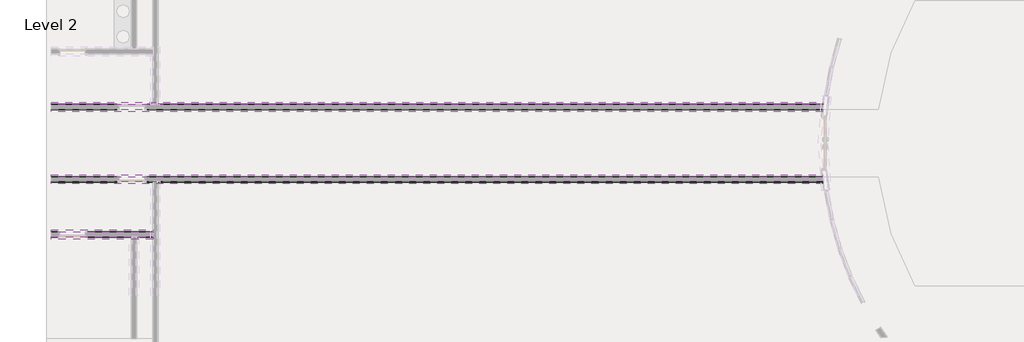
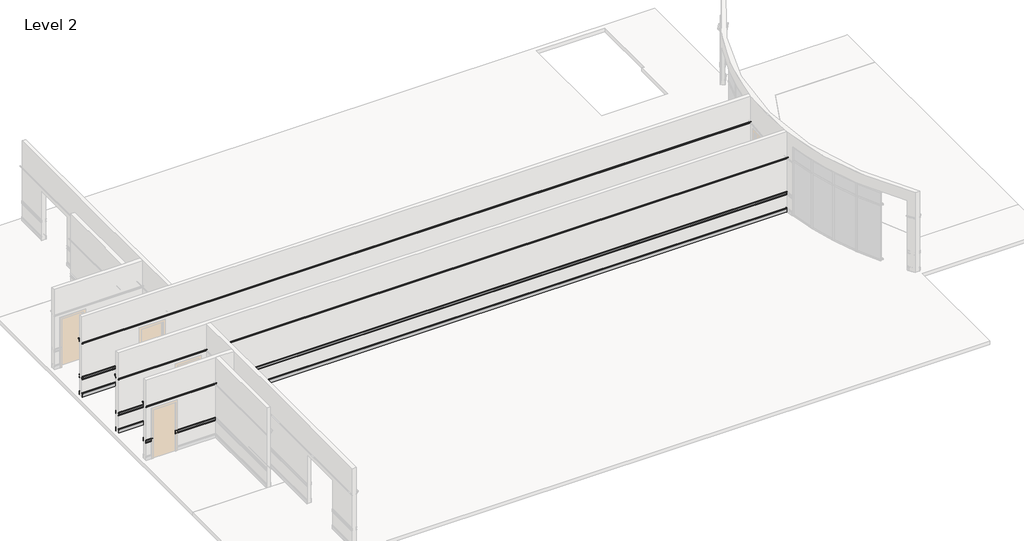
# One storey, part 7 of 14: 16 proxies.
"""IFC4 building model written with IfcOpenShell, lengths in millimetres."""

from ifc_helpers import new_model, si_unit, point, frame, frame_2d, origin, place, context, project, spatial, polyline, circle_curve, trimmed, segment, composite_curve, outline, extrude, element, save

model = new_model("IFC4")

# Units and contexts
model_context = context("Model", 3, world=origin())
ifc_project = project(units=[si_unit("LENGTHUNIT", "METRE", prefix="MILLI")], contexts=[model_context])

# Site, building, storey
site = spatial("IfcSite", under=ifc_project)
building = spatial("IfcBuilding", under=site)
storey = spatial("IfcBuildingStorey", under=building, Name="Level 2", Elevation=3657.6)

# Proxies
placement = place(None, origin())
element("IfcBuildingElementProxy", 1, Name="Wall Sweeps", at=placement, inside=storey, context=model_context, shape_type="SweptSolid", body=[
    extrude(outline(composite_curve([segment(polyline([(-3896.4601682, 3803.65), (-3894.265893, 3804.1164076)]), True, "CONTINUOUS"), segment(trimmed(circle_curve(frame_2d((-3894.4309229, 3804.8928122)), 0.79375), [point((-3894.265893, 3804.1164076))], [point((-3893.8543377, 3805.438329))], True, "CARTESIAN"), True, "CONTINUOUS"), segment(trimmed(circle_curve(frame_2d((-3886.9351681, 3812.047453)), 9.5684601), [point((-3893.8543377, 3805.438329))], [point((-3894.8499443, 3817.4244174))], False, "CARTESIAN"), True, "CONTINUOUS"), segment(polyline([(-3894.8499443, 3817.4244174), (-3888.0086514, 3827.5015472)]), True, "CONTINUOUS"), segment(trimmed(circle_curve(frame_2d((-3893.2851681, 3831.034375)), 6.35), [point((-3888.0086514, 3827.5015472))], [point((-3889.3812226, 3836.0425393))], True, "CARTESIAN"), True, "CONTINUOUS"), segment(polyline([(-3889.3812226, 3836.0425393), (-3886.9351681, 3841.75), (-3880.5851681, 3841.75), (-3880.5851681, 3797.3), (-3882.1726681, 3795.7125), (-3882.1726681, 3684.5875), (-3880.5851681, 3683.0), (-3880.5851681, 3657.6), (-3896.4601682, 3657.6), (-3896.4601682, 3803.65)]), True, "CONTINUOUS")], self_intersect=False)), frame((-13713.6410279, 0.0, 0.0), z_axis=(1.0, 0.0, 0.0), x_axis=(0.0, 1.0, 0.0)), (0.0, 0.0, 1.0), 24332.5900649),
    extrude(outline(composite_curve([segment(polyline([(-3896.4601682, 3803.65), (-3894.265893, 3804.1164076)]), True, "CONTINUOUS"), segment(trimmed(circle_curve(frame_2d((-3894.4309229, 3804.8928122)), 0.79375), [point((-3894.265893, 3804.1164076))], [point((-3893.8543377, 3805.438329))], True, "CARTESIAN"), True, "CONTINUOUS"), segment(trimmed(circle_curve(frame_2d((-3886.9351681, 3812.047453)), 9.5684601), [point((-3893.8543377, 3805.438329))], [point((-3894.8499443, 3817.4244174))], False, "CARTESIAN"), True, "CONTINUOUS"), segment(polyline([(-3894.8499443, 3817.4244174), (-3888.0086514, 3827.5015472)]), True, "CONTINUOUS"), segment(trimmed(circle_curve(frame_2d((-3893.2851681, 3831.034375)), 6.35), [point((-3888.0086514, 3827.5015472))], [point((-3889.3812226, 3836.0425393))], True, "CARTESIAN"), True, "CONTINUOUS"), segment(polyline([(-3889.3812226, 3836.0425393), (-3886.9351681, 3841.75), (-3880.5851681, 3841.75), (-3880.5851681, 3797.3), (-3882.1726681, 3795.7125), (-3882.1726681, 3684.5875), (-3880.5851681, 3683.0), (-3880.5851681, 3657.6), (-3896.4601682, 3657.6), (-3896.4601682, 3803.65)]), True, "CONTINUOUS")], self_intersect=False)), frame((-17066.4410279, 0.0, 0.0), z_axis=(1.0, 0.0, 0.0), x_axis=(0.0, 1.0, 0.0)), (0.0, 0.0, 1.0), 2438.4),
])
element("IfcBuildingElementProxy", 2, Name="Wall Sweeps", at=placement, inside=storey, context=model_context, shape_type="SweptSolid", body=[
    extrude(outline(composite_curve([segment(polyline([(-3709.135168, 3803.65), (-3709.135168, 3657.6), (-3725.0101681, 3657.6), (-3725.0101681, 3683.0), (-3723.4226681, 3684.5875), (-3723.4226681, 3795.7125), (-3725.0101681, 3797.3), (-3725.0101681, 3841.75), (-3718.6601681, 3841.75), (-3716.2141135, 3836.0425393)]), True, "CONTINUOUS"), segment(trimmed(circle_curve(frame_2d((-3712.3101681, 3831.034375)), 6.35), [point((-3716.2141135, 3836.0425393))], [point((-3717.5866847, 3827.5015472))], True, "CARTESIAN"), True, "CONTINUOUS"), segment(polyline([(-3717.5866847, 3827.5015472), (-3710.7453919, 3817.4244174)]), True, "CONTINUOUS"), segment(trimmed(circle_curve(frame_2d((-3718.6601681, 3812.047453)), 9.5684601), [point((-3710.7453919, 3817.4244174))], [point((-3711.7409985, 3805.438329))], False, "CARTESIAN"), True, "CONTINUOUS"), segment(trimmed(circle_curve(frame_2d((-3711.1644132, 3804.8928122)), 0.79375), [point((-3711.7409985, 3805.438329))], [point((-3711.3294431, 3804.1164076))], True, "CARTESIAN"), True, "CONTINUOUS"), segment(polyline([(-3711.3294431, 3804.1164076), (-3709.135168, 3803.65)]), True, "CONTINUOUS")], self_intersect=False)), frame((-17066.4410279, 0.0, 0.0), z_axis=(1.0, 0.0, 0.0), x_axis=(0.0, 1.0, 0.0)), (0.0, 0.0, 1.0), 2438.4),
    extrude(outline(composite_curve([segment(polyline([(-3709.135168, 3803.65), (-3709.135168, 3657.6), (-3725.0101681, 3657.6), (-3725.0101681, 3683.0), (-3723.4226681, 3684.5875), (-3723.4226681, 3795.7125), (-3725.0101681, 3797.3), (-3725.0101681, 3841.75), (-3718.6601681, 3841.75), (-3716.2141135, 3836.0425393)]), True, "CONTINUOUS"), segment(trimmed(circle_curve(frame_2d((-3712.3101681, 3831.034375)), 6.35), [point((-3716.2141135, 3836.0425393))], [point((-3717.5866847, 3827.5015472))], True, "CARTESIAN"), True, "CONTINUOUS"), segment(polyline([(-3717.5866847, 3827.5015472), (-3710.7453919, 3817.4244174)]), True, "CONTINUOUS"), segment(trimmed(circle_curve(frame_2d((-3718.6601681, 3812.047453)), 9.5684601), [point((-3710.7453919, 3817.4244174))], [point((-3711.7409985, 3805.438329))], False, "CARTESIAN"), True, "CONTINUOUS"), segment(trimmed(circle_curve(frame_2d((-3711.1644132, 3804.8928122)), 0.79375), [point((-3711.7409985, 3805.438329))], [point((-3711.3294431, 3804.1164076))], True, "CARTESIAN"), True, "CONTINUOUS"), segment(polyline([(-3711.3294431, 3804.1164076), (-3709.135168, 3803.65)]), True, "CONTINUOUS")], self_intersect=False)), frame((-13713.6410279, 0.0, 0.0), z_axis=(1.0, 0.0, 0.0), x_axis=(0.0, 1.0, 0.0)), (0.0, 0.0, 1.0), 24316.0518937),
])
element("IfcBuildingElementProxy", 3, Name="Wall Sweeps", at=placement, inside=storey, context=model_context, shape_type="SweptSolid", body=[
    extrude(outline(composite_curve([segment(polyline([(-3882.1726681, 4438.65), (-3880.5851681, 4437.0625), (-3880.5851681, 4419.6), (-3901.2226681, 4419.6), (-3901.2226681, 4438.65), (-3898.8414181, 4438.65)]), True, "CONTINUOUS"), segment(trimmed(circle_curve(frame_2d((-3893.8213023, 4441.03125)), 5.55625), [point((-3898.8414181, 4438.65))], [point((-3897.7501643, 4444.9601121))], False, "CARTESIAN"), True, "CONTINUOUS"), segment(trimmed(circle_curve(frame_2d((-3905.5369874, 4453.7135672)), 11.7156984), [point((-3897.7501643, 4444.9601121))], [point((-3893.8213023, 4453.73125))], True, "CARTESIAN"), True, "CONTINUOUS"), segment(polyline([(-3893.8213023, 4453.73125), (-3891.6976681, 4453.73125), (-3891.6976681, 4525.16875), (-3893.8213023, 4525.16875)]), True, "CONTINUOUS"), segment(trimmed(circle_curve(frame_2d((-3905.5369874, 4525.1864328)), 11.7156984), [point((-3893.8213023, 4525.16875))], [point((-3897.7501643, 4533.9398879))], True, "CARTESIAN"), True, "CONTINUOUS"), segment(trimmed(circle_curve(frame_2d((-3893.8213023, 4537.86875)), 5.55625), [point((-3897.7501643, 4533.9398879))], [point((-3898.8414181, 4540.25))], False, "CARTESIAN"), True, "CONTINUOUS"), segment(polyline([(-3898.8414181, 4540.25), (-3901.2226681, 4540.25), (-3901.2226681, 4559.3), (-3880.5851681, 4559.3), (-3880.5851681, 4541.8375), (-3882.1726681, 4540.25), (-3882.1726681, 4438.65)]), True, "CONTINUOUS")], self_intersect=False)), frame((-13713.6410279, 0.0, 0.0), z_axis=(1.0, 0.0, 0.0), x_axis=(0.0, 1.0, 0.0)), (0.0, 0.0, 1.0), 24332.5900649),
    extrude(outline(composite_curve([segment(polyline([(-3882.1726681, 4438.65), (-3880.5851681, 4437.0625), (-3880.5851681, 4419.6), (-3901.2226681, 4419.6), (-3901.2226681, 4438.65), (-3898.8414181, 4438.65)]), True, "CONTINUOUS"), segment(trimmed(circle_curve(frame_2d((-3893.8213023, 4441.03125)), 5.55625), [point((-3898.8414181, 4438.65))], [point((-3897.7501643, 4444.9601121))], False, "CARTESIAN"), True, "CONTINUOUS"), segment(trimmed(circle_curve(frame_2d((-3905.5369874, 4453.7135672)), 11.7156984), [point((-3897.7501643, 4444.9601121))], [point((-3893.8213023, 4453.73125))], True, "CARTESIAN"), True, "CONTINUOUS"), segment(polyline([(-3893.8213023, 4453.73125), (-3891.6976681, 4453.73125), (-3891.6976681, 4525.16875), (-3893.8213023, 4525.16875)]), True, "CONTINUOUS"), segment(trimmed(circle_curve(frame_2d((-3905.5369874, 4525.1864328)), 11.7156984), [point((-3893.8213023, 4525.16875))], [point((-3897.7501643, 4533.9398879))], True, "CARTESIAN"), True, "CONTINUOUS"), segment(trimmed(circle_curve(frame_2d((-3893.8213023, 4537.86875)), 5.55625), [point((-3897.7501643, 4533.9398879))], [point((-3898.8414181, 4540.25))], False, "CARTESIAN"), True, "CONTINUOUS"), segment(polyline([(-3898.8414181, 4540.25), (-3901.2226681, 4540.25), (-3901.2226681, 4559.3), (-3880.5851681, 4559.3), (-3880.5851681, 4541.8375), (-3882.1726681, 4540.25), (-3882.1726681, 4438.65)]), True, "CONTINUOUS")], self_intersect=False)), frame((-17066.4410279, 0.0, 0.0), z_axis=(1.0, 0.0, 0.0), x_axis=(0.0, 1.0, 0.0)), (0.0, 0.0, 1.0), 2438.4),
])
element("IfcBuildingElementProxy", 4, Name="Wall Sweeps", at=placement, inside=storey, context=model_context, shape_type="SweptSolid", body=[
    extrude(outline(composite_curve([segment(polyline([(-3723.4226681, 4438.65), (-3723.4226681, 4540.25), (-3725.0101681, 4541.8375), (-3725.0101681, 4559.3), (-3704.3726681, 4559.3), (-3704.3726681, 4540.25), (-3706.7539181, 4540.25)]), True, "CONTINUOUS"), segment(trimmed(circle_curve(frame_2d((-3711.7740339, 4537.86875)), 5.55625), [point((-3706.7539181, 4540.25))], [point((-3707.8451718, 4533.9398879))], False, "CARTESIAN"), True, "CONTINUOUS"), segment(trimmed(circle_curve(frame_2d((-3700.0583488, 4525.1864328)), 11.7156984), [point((-3707.8451718, 4533.9398879))], [point((-3711.7740339, 4525.16875))], True, "CARTESIAN"), True, "CONTINUOUS"), segment(polyline([(-3711.7740339, 4525.16875), (-3713.8976681, 4525.16875), (-3713.8976681, 4453.73125), (-3711.7740339, 4453.73125)]), True, "CONTINUOUS"), segment(trimmed(circle_curve(frame_2d((-3700.0583488, 4453.7135672)), 11.7156984), [point((-3711.7740339, 4453.73125))], [point((-3707.8451718, 4444.9601121))], True, "CARTESIAN"), True, "CONTINUOUS"), segment(trimmed(circle_curve(frame_2d((-3711.7740339, 4441.03125)), 5.55625), [point((-3707.8451718, 4444.9601121))], [point((-3706.7539181, 4438.65))], False, "CARTESIAN"), True, "CONTINUOUS"), segment(polyline([(-3706.7539181, 4438.65), (-3704.3726681, 4438.65), (-3704.3726681, 4419.6), (-3725.0101681, 4419.6), (-3725.0101681, 4437.0625), (-3723.4226681, 4438.65)]), True, "CONTINUOUS")], self_intersect=False)), frame((-17066.4410279, 0.0, 0.0), z_axis=(1.0, 0.0, 0.0), x_axis=(0.0, 1.0, 0.0)), (0.0, 0.0, 1.0), 2438.4),
    extrude(outline(composite_curve([segment(polyline([(-3723.4226681, 4438.65), (-3723.4226681, 4540.25), (-3725.0101681, 4541.8375), (-3725.0101681, 4559.3), (-3704.3726681, 4559.3), (-3704.3726681, 4540.25), (-3706.7539181, 4540.25)]), True, "CONTINUOUS"), segment(trimmed(circle_curve(frame_2d((-3711.7740339, 4537.86875)), 5.55625), [point((-3706.7539181, 4540.25))], [point((-3707.8451718, 4533.9398879))], False, "CARTESIAN"), True, "CONTINUOUS"), segment(trimmed(circle_curve(frame_2d((-3700.0583488, 4525.1864328)), 11.7156984), [point((-3707.8451718, 4533.9398879))], [point((-3711.7740339, 4525.16875))], True, "CARTESIAN"), True, "CONTINUOUS"), segment(polyline([(-3711.7740339, 4525.16875), (-3713.8976681, 4525.16875), (-3713.8976681, 4453.73125), (-3711.7740339, 4453.73125)]), True, "CONTINUOUS"), segment(trimmed(circle_curve(frame_2d((-3700.0583488, 4453.7135672)), 11.7156984), [point((-3711.7740339, 4453.73125))], [point((-3707.8451718, 4444.9601121))], True, "CARTESIAN"), True, "CONTINUOUS"), segment(trimmed(circle_curve(frame_2d((-3711.7740339, 4441.03125)), 5.55625), [point((-3707.8451718, 4444.9601121))], [point((-3706.7539181, 4438.65))], False, "CARTESIAN"), True, "CONTINUOUS"), segment(polyline([(-3706.7539181, 4438.65), (-3704.3726681, 4438.65), (-3704.3726681, 4419.6), (-3725.0101681, 4419.6), (-3725.0101681, 4437.0625), (-3723.4226681, 4438.65)]), True, "CONTINUOUS")], self_intersect=False)), frame((-13713.6410279, 0.0, 0.0), z_axis=(1.0, 0.0, 0.0), x_axis=(0.0, 1.0, 0.0)), (0.0, 0.0, 1.0), 24316.0518937),
])
element("IfcBuildingElementProxy", 5, Name="Wall Sweeps", at=placement, inside=storey, context=model_context, shape_type="SweptSolid", body=[
    extrude(outline(composite_curve([segment(polyline([(-3948.7783306, 6095.999973), (-3880.5851681, 6009.4919306), (-3880.5851681, 5984.875), (-3887.7680353, 5984.875)]), True, "CONTINUOUS"), segment(trimmed(circle_curve(frame_2d((-3895.0214546, 5984.8589154)), 7.2534372), [point((-3887.7680353, 5984.875))], [point((-3891.7441612, 5991.3297498))], True, "CARTESIAN"), True, "CONTINUOUS"), segment(polyline([(-3891.7441612, 5991.3297498), (-3891.7441612, 5995.6157037)]), True, "CONTINUOUS"), segment(trimmed(circle_curve(frame_2d((-3888.3826385, 6005.5606001)), 10.4976568), [point((-3891.7441612, 5995.6157037))], [point((-3898.870205, 6006.0207604))], False, "CARTESIAN"), True, "CONTINUOUS"), segment(polyline([(-3898.870205, 6006.0207604), (-3902.4590459, 6006.0207604), (-3902.4590459, 6011.0554653), (-3905.6864208, 6011.0554653)]), True, "CONTINUOUS"), segment(trimmed(circle_curve(frame_2d((-3952.6348228, 6007.8346746)), 47.0587499), [point((-3905.6864208, 6011.0554653))], [point((-3931.1826826, 6049.7194168))], True, "CARTESIAN"), True, "CONTINUOUS"), segment(polyline([(-3931.1826826, 6049.7194168), (-3938.4249119, 6054.4442936)]), True, "CONTINUOUS"), segment(trimmed(circle_curve(frame_2d((-3930.1167206, 6074.6589994)), 21.8554426), [point((-3938.4249119, 6054.4442936))], [point((-3951.9540675, 6073.7698146))], False, "CARTESIAN"), True, "CONTINUOUS"), segment(polyline([(-3951.9540675, 6073.7698146), (-3951.9540675, 6079.2202934), (-3954.7226313, 6079.2202934)]), True, "CONTINUOUS"), segment(trimmed(circle_curve(frame_2d((-3955.664958, 6087.2314026)), 8.0663405), [point((-3954.7226313, 6079.2202934))], [point((-3963.5203242, 6085.3986257))], False, "CARTESIAN"), True, "CONTINUOUS"), segment(trimmed(circle_curve(frame_2d((-3970.8043091, 6081.5641253)), 8.2316359), [point((-3963.5203242, 6085.3986257))], [point((-3966.9698087, 6088.8481102))], True, "CARTESIAN"), True, "CONTINUOUS"), segment(polyline([(-3966.9698087, 6088.8481102), (-3969.4851681, 6088.8481102), (-3969.4851681, 6095.999973), (-3948.7783306, 6095.999973)]), True, "CONTINUOUS")], self_intersect=False)), frame((-17066.4410279, 0.0, 0.0), z_axis=(1.0, 0.0, 0.0), x_axis=(0.0, 1.0, 0.0)), (0.0, 0.0, 1.0), 27685.3900649),
])
element("IfcBuildingElementProxy", 6, Name="Wall Sweeps", at=placement, inside=storey, context=model_context, shape_type="SweptSolid", body=[
    extrude(outline(composite_curve([segment(polyline([(-3656.8170055, 6095.999973), (-3636.1101681, 6095.999973), (-3636.1101681, 6088.8481102), (-3638.6255275, 6088.8481102)]), True, "CONTINUOUS"), segment(trimmed(circle_curve(frame_2d((-3634.791027, 6081.5641253)), 8.2316359), [point((-3638.6255275, 6088.8481102))], [point((-3642.0750119, 6085.3986257))], True, "CARTESIAN"), True, "CONTINUOUS"), segment(trimmed(circle_curve(frame_2d((-3649.9303781, 6087.2314026)), 8.0663405), [point((-3642.0750119, 6085.3986257))], [point((-3650.8727048, 6079.2202934))], False, "CARTESIAN"), True, "CONTINUOUS"), segment(polyline([(-3650.8727048, 6079.2202934), (-3653.6412686, 6079.2202934), (-3653.6412686, 6073.7698146)]), True, "CONTINUOUS"), segment(trimmed(circle_curve(frame_2d((-3675.4786155, 6074.6589994)), 21.8554426), [point((-3653.6412686, 6073.7698146))], [point((-3667.1704242, 6054.4442936))], False, "CARTESIAN"), True, "CONTINUOUS"), segment(polyline([(-3667.1704242, 6054.4442936), (-3674.4126535, 6049.7194168)]), True, "CONTINUOUS"), segment(trimmed(circle_curve(frame_2d((-3652.9605134, 6007.8346746)), 47.0587499), [point((-3674.4126535, 6049.7194168))], [point((-3699.9089154, 6011.0554653))], True, "CARTESIAN"), True, "CONTINUOUS"), segment(polyline([(-3699.9089154, 6011.0554653), (-3703.1362903, 6011.0554653), (-3703.1362903, 6006.0207604), (-3706.7251312, 6006.0207604)]), True, "CONTINUOUS"), segment(trimmed(circle_curve(frame_2d((-3717.2126976, 6005.5606001)), 10.4976568), [point((-3706.7251312, 6006.0207604))], [point((-3713.851175, 5995.6157037))], False, "CARTESIAN"), True, "CONTINUOUS"), segment(polyline([(-3713.851175, 5995.6157037), (-3713.851175, 5991.3297498)]), True, "CONTINUOUS"), segment(trimmed(circle_curve(frame_2d((-3710.5738815, 5984.8589154)), 7.2534372), [point((-3713.851175, 5991.3297498))], [point((-3717.8273009, 5984.875))], True, "CARTESIAN"), True, "CONTINUOUS"), segment(polyline([(-3717.8273009, 5984.875), (-3725.0101681, 5984.875), (-3725.0101681, 6009.4919306), (-3656.8170055, 6095.999973)]), True, "CONTINUOUS")], self_intersect=False)), frame((-17066.4410279, 0.0, 0.0), z_axis=(1.0, 0.0, 0.0), x_axis=(0.0, 1.0, 0.0)), (0.0, 0.0, 1.0), 27668.8518937),
])
element("IfcBuildingElementProxy", 7, Name="Wall Sweeps", at=placement, inside=storey, context=model_context, shape_type="SweptSolid", body=[
    extrude(outline(composite_curve([segment(polyline([(-1115.160168, 3803.65), (-1115.160168, 3657.6), (-1131.0351681, 3657.6), (-1131.0351681, 3683.0), (-1129.4476681, 3684.5875), (-1129.4476681, 3795.7125), (-1131.0351681, 3797.3), (-1131.0351681, 3841.75), (-1124.6851681, 3841.75), (-1122.2391135, 3836.0425393)]), True, "CONTINUOUS"), segment(trimmed(circle_curve(frame_2d((-1118.3351681, 3831.034375)), 6.35), [point((-1122.2391135, 3836.0425393))], [point((-1123.6116847, 3827.5015472))], True, "CARTESIAN"), True, "CONTINUOUS"), segment(polyline([(-1123.6116847, 3827.5015472), (-1116.7703919, 3817.4244174)]), True, "CONTINUOUS"), segment(trimmed(circle_curve(frame_2d((-1124.6851681, 3812.047453)), 9.5684601), [point((-1116.7703919, 3817.4244174))], [point((-1117.7659985, 3805.438329))], False, "CARTESIAN"), True, "CONTINUOUS"), segment(trimmed(circle_curve(frame_2d((-1117.1894132, 3804.8928122)), 0.79375), [point((-1117.7659985, 3805.438329))], [point((-1117.3544431, 3804.1164076))], True, "CARTESIAN"), True, "CONTINUOUS"), segment(polyline([(-1117.3544431, 3804.1164076), (-1115.160168, 3803.65)]), True, "CONTINUOUS")], self_intersect=False)), frame((-17066.4410279, 0.0, 0.0), z_axis=(1.0, 0.0, 0.0), x_axis=(0.0, 1.0, 0.0)), (0.0, 0.0, 1.0), 2438.4),
    extrude(outline(composite_curve([segment(polyline([(-1115.160168, 3803.65), (-1115.160168, 3657.6), (-1131.0351681, 3657.6), (-1131.0351681, 3683.0), (-1129.4476681, 3684.5875), (-1129.4476681, 3795.7125), (-1131.0351681, 3797.3), (-1131.0351681, 3841.75), (-1124.6851681, 3841.75), (-1122.2391135, 3836.0425393)]), True, "CONTINUOUS"), segment(trimmed(circle_curve(frame_2d((-1118.3351681, 3831.034375)), 6.35), [point((-1122.2391135, 3836.0425393))], [point((-1123.6116847, 3827.5015472))], True, "CARTESIAN"), True, "CONTINUOUS"), segment(polyline([(-1123.6116847, 3827.5015472), (-1116.7703919, 3817.4244174)]), True, "CONTINUOUS"), segment(trimmed(circle_curve(frame_2d((-1124.6851681, 3812.047453)), 9.5684601), [point((-1116.7703919, 3817.4244174))], [point((-1117.7659985, 3805.438329))], False, "CARTESIAN"), True, "CONTINUOUS"), segment(trimmed(circle_curve(frame_2d((-1117.1894132, 3804.8928122)), 0.79375), [point((-1117.7659985, 3805.438329))], [point((-1117.3544431, 3804.1164076))], True, "CARTESIAN"), True, "CONTINUOUS"), segment(polyline([(-1117.3544431, 3804.1164076), (-1115.160168, 3803.65)]), True, "CONTINUOUS")], self_intersect=False)), frame((-13713.6410279, 0.0, 0.0), z_axis=(1.0, 0.0, 0.0), x_axis=(0.0, 1.0, 0.0)), (0.0, 0.0, 1.0), 24332.5900649),
])
element("IfcBuildingElementProxy", 8, Name="Wall Sweeps", at=placement, inside=storey, context=model_context, shape_type="SweptSolid", body=[
    extrude(outline(composite_curve([segment(polyline([(-1302.4851682, 3803.65), (-1300.290893, 3804.1164076)]), True, "CONTINUOUS"), segment(trimmed(circle_curve(frame_2d((-1300.4559229, 3804.8928122)), 0.79375), [point((-1300.290893, 3804.1164076))], [point((-1299.8793377, 3805.438329))], True, "CARTESIAN"), True, "CONTINUOUS"), segment(trimmed(circle_curve(frame_2d((-1292.9601681, 3812.047453)), 9.5684601), [point((-1299.8793377, 3805.438329))], [point((-1300.8749443, 3817.4244174))], False, "CARTESIAN"), True, "CONTINUOUS"), segment(polyline([(-1300.8749443, 3817.4244174), (-1294.0336514, 3827.5015472)]), True, "CONTINUOUS"), segment(trimmed(circle_curve(frame_2d((-1299.3101681, 3831.034375)), 6.35), [point((-1294.0336514, 3827.5015472))], [point((-1295.4062226, 3836.0425393))], True, "CARTESIAN"), True, "CONTINUOUS"), segment(polyline([(-1295.4062226, 3836.0425393), (-1292.9601681, 3841.75), (-1286.6101681, 3841.75), (-1286.6101681, 3797.3), (-1288.1976681, 3795.7125), (-1288.1976681, 3684.5875), (-1286.6101681, 3683.0), (-1286.6101681, 3657.6), (-1302.4851682, 3657.6), (-1302.4851682, 3803.65)]), True, "CONTINUOUS")], self_intersect=False)), frame((-13713.6410279, 0.0, 0.0), z_axis=(1.0, 0.0, 0.0), x_axis=(0.0, 1.0, 0.0)), (0.0, 0.0, 1.0), 24316.0518937),
    extrude(outline(composite_curve([segment(polyline([(-1302.4851682, 3803.65), (-1300.290893, 3804.1164076)]), True, "CONTINUOUS"), segment(trimmed(circle_curve(frame_2d((-1300.4559229, 3804.8928122)), 0.79375), [point((-1300.290893, 3804.1164076))], [point((-1299.8793377, 3805.438329))], True, "CARTESIAN"), True, "CONTINUOUS"), segment(trimmed(circle_curve(frame_2d((-1292.9601681, 3812.047453)), 9.5684601), [point((-1299.8793377, 3805.438329))], [point((-1300.8749443, 3817.4244174))], False, "CARTESIAN"), True, "CONTINUOUS"), segment(polyline([(-1300.8749443, 3817.4244174), (-1294.0336514, 3827.5015472)]), True, "CONTINUOUS"), segment(trimmed(circle_curve(frame_2d((-1299.3101681, 3831.034375)), 6.35), [point((-1294.0336514, 3827.5015472))], [point((-1295.4062226, 3836.0425393))], True, "CARTESIAN"), True, "CONTINUOUS"), segment(polyline([(-1295.4062226, 3836.0425393), (-1292.9601681, 3841.75), (-1286.6101681, 3841.75), (-1286.6101681, 3797.3), (-1288.1976681, 3795.7125), (-1288.1976681, 3684.5875), (-1286.6101681, 3683.0), (-1286.6101681, 3657.6), (-1302.4851682, 3657.6), (-1302.4851682, 3803.65)]), True, "CONTINUOUS")], self_intersect=False)), frame((-17066.4410279, 0.0, 0.0), z_axis=(1.0, 0.0, 0.0), x_axis=(0.0, 1.0, 0.0)), (0.0, 0.0, 1.0), 2438.4),
])
element("IfcBuildingElementProxy", 9, Name="Wall Sweeps", at=placement, inside=storey, context=model_context, shape_type="SweptSolid", body=[
    extrude(outline(composite_curve([segment(polyline([(-1129.4476681, 4438.65), (-1129.4476681, 4540.25), (-1131.0351681, 4541.8375), (-1131.0351681, 4559.3), (-1110.3976681, 4559.3), (-1110.3976681, 4540.25), (-1112.7789181, 4540.25)]), True, "CONTINUOUS"), segment(trimmed(circle_curve(frame_2d((-1117.7990339, 4537.86875)), 5.55625), [point((-1112.7789181, 4540.25))], [point((-1113.8701718, 4533.9398879))], False, "CARTESIAN"), True, "CONTINUOUS"), segment(trimmed(circle_curve(frame_2d((-1106.0833488, 4525.1864328)), 11.7156984), [point((-1113.8701718, 4533.9398879))], [point((-1117.7990339, 4525.16875))], True, "CARTESIAN"), True, "CONTINUOUS"), segment(polyline([(-1117.7990339, 4525.16875), (-1119.9226681, 4525.16875), (-1119.9226681, 4453.73125), (-1117.7990339, 4453.73125)]), True, "CONTINUOUS"), segment(trimmed(circle_curve(frame_2d((-1106.0833488, 4453.7135672)), 11.7156984), [point((-1117.7990339, 4453.73125))], [point((-1113.8701718, 4444.9601121))], True, "CARTESIAN"), True, "CONTINUOUS"), segment(trimmed(circle_curve(frame_2d((-1117.7990339, 4441.03125)), 5.55625), [point((-1113.8701718, 4444.9601121))], [point((-1112.7789181, 4438.65))], False, "CARTESIAN"), True, "CONTINUOUS"), segment(polyline([(-1112.7789181, 4438.65), (-1110.3976681, 4438.65), (-1110.3976681, 4419.6), (-1131.0351681, 4419.6), (-1131.0351681, 4437.0625), (-1129.4476681, 4438.65)]), True, "CONTINUOUS")], self_intersect=False)), frame((-17066.4410279, 0.0, 0.0), z_axis=(1.0, 0.0, 0.0), x_axis=(0.0, 1.0, 0.0)), (0.0, 0.0, 1.0), 2438.4),
    extrude(outline(composite_curve([segment(polyline([(-1129.4476681, 4438.65), (-1129.4476681, 4540.25), (-1131.0351681, 4541.8375), (-1131.0351681, 4559.3), (-1110.3976681, 4559.3), (-1110.3976681, 4540.25), (-1112.7789181, 4540.25)]), True, "CONTINUOUS"), segment(trimmed(circle_curve(frame_2d((-1117.7990339, 4537.86875)), 5.55625), [point((-1112.7789181, 4540.25))], [point((-1113.8701718, 4533.9398879))], False, "CARTESIAN"), True, "CONTINUOUS"), segment(trimmed(circle_curve(frame_2d((-1106.0833488, 4525.1864328)), 11.7156984), [point((-1113.8701718, 4533.9398879))], [point((-1117.7990339, 4525.16875))], True, "CARTESIAN"), True, "CONTINUOUS"), segment(polyline([(-1117.7990339, 4525.16875), (-1119.9226681, 4525.16875), (-1119.9226681, 4453.73125), (-1117.7990339, 4453.73125)]), True, "CONTINUOUS"), segment(trimmed(circle_curve(frame_2d((-1106.0833488, 4453.7135672)), 11.7156984), [point((-1117.7990339, 4453.73125))], [point((-1113.8701718, 4444.9601121))], True, "CARTESIAN"), True, "CONTINUOUS"), segment(trimmed(circle_curve(frame_2d((-1117.7990339, 4441.03125)), 5.55625), [point((-1113.8701718, 4444.9601121))], [point((-1112.7789181, 4438.65))], False, "CARTESIAN"), True, "CONTINUOUS"), segment(polyline([(-1112.7789181, 4438.65), (-1110.3976681, 4438.65), (-1110.3976681, 4419.6), (-1131.0351681, 4419.6), (-1131.0351681, 4437.0625), (-1129.4476681, 4438.65)]), True, "CONTINUOUS")], self_intersect=False)), frame((-13713.6410279, 0.0, 0.0), z_axis=(1.0, 0.0, 0.0), x_axis=(0.0, 1.0, 0.0)), (0.0, 0.0, 1.0), 24332.5900649),
])
element("IfcBuildingElementProxy", 10, Name="Wall Sweeps", at=placement, inside=storey, context=model_context, shape_type="SweptSolid", body=[
    extrude(outline(composite_curve([segment(polyline([(-1288.1976681, 4438.65), (-1286.6101681, 4437.0625), (-1286.6101681, 4419.6), (-1307.2476681, 4419.6), (-1307.2476681, 4438.65), (-1304.8664181, 4438.65)]), True, "CONTINUOUS"), segment(trimmed(circle_curve(frame_2d((-1299.8463023, 4441.03125)), 5.55625), [point((-1304.8664181, 4438.65))], [point((-1303.7751643, 4444.9601121))], False, "CARTESIAN"), True, "CONTINUOUS"), segment(trimmed(circle_curve(frame_2d((-1311.5619874, 4453.7135672)), 11.7156984), [point((-1303.7751643, 4444.9601121))], [point((-1299.8463023, 4453.73125))], True, "CARTESIAN"), True, "CONTINUOUS"), segment(polyline([(-1299.8463023, 4453.73125), (-1297.7226681, 4453.73125), (-1297.7226681, 4525.16875), (-1299.8463023, 4525.16875)]), True, "CONTINUOUS"), segment(trimmed(circle_curve(frame_2d((-1311.5619874, 4525.1864328)), 11.7156984), [point((-1299.8463023, 4525.16875))], [point((-1303.7751643, 4533.9398879))], True, "CARTESIAN"), True, "CONTINUOUS"), segment(trimmed(circle_curve(frame_2d((-1299.8463023, 4537.86875)), 5.55625), [point((-1303.7751643, 4533.9398879))], [point((-1304.8664181, 4540.25))], False, "CARTESIAN"), True, "CONTINUOUS"), segment(polyline([(-1304.8664181, 4540.25), (-1307.2476681, 4540.25), (-1307.2476681, 4559.3), (-1286.6101681, 4559.3), (-1286.6101681, 4541.8375), (-1288.1976681, 4540.25), (-1288.1976681, 4438.65)]), True, "CONTINUOUS")], self_intersect=False)), frame((-13713.6410279, 0.0, 0.0), z_axis=(1.0, 0.0, 0.0), x_axis=(0.0, 1.0, 0.0)), (0.0, 0.0, 1.0), 24316.0518937),
    extrude(outline(composite_curve([segment(polyline([(-1288.1976681, 4438.65), (-1286.6101681, 4437.0625), (-1286.6101681, 4419.6), (-1307.2476681, 4419.6), (-1307.2476681, 4438.65), (-1304.8664181, 4438.65)]), True, "CONTINUOUS"), segment(trimmed(circle_curve(frame_2d((-1299.8463023, 4441.03125)), 5.55625), [point((-1304.8664181, 4438.65))], [point((-1303.7751643, 4444.9601121))], False, "CARTESIAN"), True, "CONTINUOUS"), segment(trimmed(circle_curve(frame_2d((-1311.5619874, 4453.7135672)), 11.7156984), [point((-1303.7751643, 4444.9601121))], [point((-1299.8463023, 4453.73125))], True, "CARTESIAN"), True, "CONTINUOUS"), segment(polyline([(-1299.8463023, 4453.73125), (-1297.7226681, 4453.73125), (-1297.7226681, 4525.16875), (-1299.8463023, 4525.16875)]), True, "CONTINUOUS"), segment(trimmed(circle_curve(frame_2d((-1311.5619874, 4525.1864328)), 11.7156984), [point((-1299.8463023, 4525.16875))], [point((-1303.7751643, 4533.9398879))], True, "CARTESIAN"), True, "CONTINUOUS"), segment(trimmed(circle_curve(frame_2d((-1299.8463023, 4537.86875)), 5.55625), [point((-1303.7751643, 4533.9398879))], [point((-1304.8664181, 4540.25))], False, "CARTESIAN"), True, "CONTINUOUS"), segment(polyline([(-1304.8664181, 4540.25), (-1307.2476681, 4540.25), (-1307.2476681, 4559.3), (-1286.6101681, 4559.3), (-1286.6101681, 4541.8375), (-1288.1976681, 4540.25), (-1288.1976681, 4438.65)]), True, "CONTINUOUS")], self_intersect=False)), frame((-17066.4410279, 0.0, 0.0), z_axis=(1.0, 0.0, 0.0), x_axis=(0.0, 1.0, 0.0)), (0.0, 0.0, 1.0), 2438.4),
])
element("IfcBuildingElementProxy", 11, Name="Wall Sweeps", at=placement, inside=storey, context=model_context, shape_type="SweptSolid", body=[
    extrude(outline(composite_curve([segment(polyline([(-1062.8420055, 6095.999973), (-1042.1351681, 6095.999973), (-1042.1351681, 6088.8481102), (-1044.6505275, 6088.8481102)]), True, "CONTINUOUS"), segment(trimmed(circle_curve(frame_2d((-1040.816027, 6081.5641253)), 8.2316359), [point((-1044.6505275, 6088.8481102))], [point((-1048.1000119, 6085.3986257))], True, "CARTESIAN"), True, "CONTINUOUS"), segment(trimmed(circle_curve(frame_2d((-1055.9553781, 6087.2314026)), 8.0663405), [point((-1048.1000119, 6085.3986257))], [point((-1056.8977048, 6079.2202934))], False, "CARTESIAN"), True, "CONTINUOUS"), segment(polyline([(-1056.8977048, 6079.2202934), (-1059.6662686, 6079.2202934), (-1059.6662686, 6073.7698146)]), True, "CONTINUOUS"), segment(trimmed(circle_curve(frame_2d((-1081.5036155, 6074.6589994)), 21.8554426), [point((-1059.6662686, 6073.7698146))], [point((-1073.1954242, 6054.4442936))], False, "CARTESIAN"), True, "CONTINUOUS"), segment(polyline([(-1073.1954242, 6054.4442936), (-1080.4376535, 6049.7194168)]), True, "CONTINUOUS"), segment(trimmed(circle_curve(frame_2d((-1058.9855134, 6007.8346746)), 47.0587499), [point((-1080.4376535, 6049.7194168))], [point((-1105.9339154, 6011.0554653))], True, "CARTESIAN"), True, "CONTINUOUS"), segment(polyline([(-1105.9339154, 6011.0554653), (-1109.1612903, 6011.0554653), (-1109.1612903, 6006.0207604), (-1112.7501312, 6006.0207604)]), True, "CONTINUOUS"), segment(trimmed(circle_curve(frame_2d((-1123.2376976, 6005.5606001)), 10.4976568), [point((-1112.7501312, 6006.0207604))], [point((-1119.876175, 5995.6157037))], False, "CARTESIAN"), True, "CONTINUOUS"), segment(polyline([(-1119.876175, 5995.6157037), (-1119.876175, 5991.3297498)]), True, "CONTINUOUS"), segment(trimmed(circle_curve(frame_2d((-1116.5988815, 5984.8589154)), 7.2534372), [point((-1119.876175, 5991.3297498))], [point((-1123.8523009, 5984.875))], True, "CARTESIAN"), True, "CONTINUOUS"), segment(polyline([(-1123.8523009, 5984.875), (-1131.0351681, 5984.875), (-1131.0351681, 6009.4919306), (-1062.8420055, 6095.999973)]), True, "CONTINUOUS")], self_intersect=False)), frame((-17066.4410279, 0.0, 0.0), z_axis=(1.0, 0.0, 0.0), x_axis=(0.0, 1.0, 0.0)), (0.0, 0.0, 1.0), 27685.3900649),
])
element("IfcBuildingElementProxy", 12, Name="Wall Sweeps", at=placement, inside=storey, context=model_context, shape_type="SweptSolid", body=[
    extrude(outline(composite_curve([segment(polyline([(-1354.8033306, 6095.999973), (-1286.6101681, 6009.4919306), (-1286.6101681, 5984.875), (-1293.7930353, 5984.875)]), True, "CONTINUOUS"), segment(trimmed(circle_curve(frame_2d((-1301.0464546, 5984.8589154)), 7.2534372), [point((-1293.7930353, 5984.875))], [point((-1297.7691612, 5991.3297498))], True, "CARTESIAN"), True, "CONTINUOUS"), segment(polyline([(-1297.7691612, 5991.3297498), (-1297.7691612, 5995.6157037)]), True, "CONTINUOUS"), segment(trimmed(circle_curve(frame_2d((-1294.4076385, 6005.5606001)), 10.4976568), [point((-1297.7691612, 5995.6157037))], [point((-1304.895205, 6006.0207604))], False, "CARTESIAN"), True, "CONTINUOUS"), segment(polyline([(-1304.895205, 6006.0207604), (-1308.4840459, 6006.0207604), (-1308.4840459, 6011.0554653), (-1311.7114208, 6011.0554653)]), True, "CONTINUOUS"), segment(trimmed(circle_curve(frame_2d((-1358.6598228, 6007.8346746)), 47.0587499), [point((-1311.7114208, 6011.0554653))], [point((-1337.2076826, 6049.7194168))], True, "CARTESIAN"), True, "CONTINUOUS"), segment(polyline([(-1337.2076826, 6049.7194168), (-1344.4499119, 6054.4442936)]), True, "CONTINUOUS"), segment(trimmed(circle_curve(frame_2d((-1336.1417206, 6074.6589994)), 21.8554426), [point((-1344.4499119, 6054.4442936))], [point((-1357.9790675, 6073.7698146))], False, "CARTESIAN"), True, "CONTINUOUS"), segment(polyline([(-1357.9790675, 6073.7698146), (-1357.9790675, 6079.2202934), (-1360.7476313, 6079.2202934)]), True, "CONTINUOUS"), segment(trimmed(circle_curve(frame_2d((-1361.689958, 6087.2314026)), 8.0663405), [point((-1360.7476313, 6079.2202934))], [point((-1369.5453242, 6085.3986257))], False, "CARTESIAN"), True, "CONTINUOUS"), segment(trimmed(circle_curve(frame_2d((-1376.8293091, 6081.5641253)), 8.2316359), [point((-1369.5453242, 6085.3986257))], [point((-1372.9948087, 6088.8481102))], True, "CARTESIAN"), True, "CONTINUOUS"), segment(polyline([(-1372.9948087, 6088.8481102), (-1375.5101681, 6088.8481102), (-1375.5101681, 6095.999973), (-1354.8033306, 6095.999973)]), True, "CONTINUOUS")], self_intersect=False)), frame((-17066.4410279, 0.0, 0.0), z_axis=(1.0, 0.0, 0.0), x_axis=(0.0, 1.0, 0.0)), (0.0, 0.0, 1.0), 27668.8518937),
])
element("IfcBuildingElementProxy", 13, Name="Wall Sweeps", at=placement, inside=storey, context=model_context, shape_type="SweptSolid", body=[
    extrude(outline(composite_curve([segment(polyline([(-5866.5476681, 4438.65), (-5864.9601681, 4437.0625), (-5864.9601681, 4419.6), (-5885.5976681, 4419.6), (-5885.5976681, 4438.65), (-5883.2164181, 4438.65)]), True, "CONTINUOUS"), segment(trimmed(circle_curve(frame_2d((-5878.1963023, 4441.03125)), 5.55625), [point((-5883.2164181, 4438.65))], [point((-5882.1251643, 4444.9601121))], False, "CARTESIAN"), True, "CONTINUOUS"), segment(trimmed(circle_curve(frame_2d((-5889.9119874, 4453.7135672)), 11.7156984), [point((-5882.1251643, 4444.9601121))], [point((-5878.1963023, 4453.73125))], True, "CARTESIAN"), True, "CONTINUOUS"), segment(polyline([(-5878.1963023, 4453.73125), (-5876.0726681, 4453.73125), (-5876.0726681, 4525.16875), (-5878.1963023, 4525.16875)]), True, "CONTINUOUS"), segment(trimmed(circle_curve(frame_2d((-5889.9119874, 4525.1864328)), 11.7156984), [point((-5878.1963023, 4525.16875))], [point((-5882.1251643, 4533.9398879))], True, "CARTESIAN"), True, "CONTINUOUS"), segment(trimmed(circle_curve(frame_2d((-5878.1963023, 4537.86875)), 5.55625), [point((-5882.1251643, 4533.9398879))], [point((-5883.2164181, 4540.25))], False, "CARTESIAN"), True, "CONTINUOUS"), segment(polyline([(-5883.2164181, 4540.25), (-5885.5976681, 4540.25), (-5885.5976681, 4559.3), (-5864.9601681, 4559.3), (-5864.9601681, 4541.8375), (-5866.5476681, 4540.25), (-5866.5476681, 4438.65)]), True, "CONTINUOUS")], self_intersect=False)), frame((-15847.2410279, 0.0, 0.0), z_axis=(1.0, 0.0, 0.0), x_axis=(0.0, 1.0, 0.0)), (0.0, 0.0, 1.0), 2438.4),
    extrude(outline(composite_curve([segment(polyline([(-5866.5476681, 4438.65), (-5864.9601681, 4437.0625), (-5864.9601681, 4419.6), (-5885.5976681, 4419.6), (-5885.5976681, 4438.65), (-5883.2164181, 4438.65)]), True, "CONTINUOUS"), segment(trimmed(circle_curve(frame_2d((-5878.1963023, 4441.03125)), 5.55625), [point((-5883.2164181, 4438.65))], [point((-5882.1251643, 4444.9601121))], False, "CARTESIAN"), True, "CONTINUOUS"), segment(trimmed(circle_curve(frame_2d((-5889.9119874, 4453.7135672)), 11.7156984), [point((-5882.1251643, 4444.9601121))], [point((-5878.1963023, 4453.73125))], True, "CARTESIAN"), True, "CONTINUOUS"), segment(polyline([(-5878.1963023, 4453.73125), (-5876.0726681, 4453.73125), (-5876.0726681, 4525.16875), (-5878.1963023, 4525.16875)]), True, "CONTINUOUS"), segment(trimmed(circle_curve(frame_2d((-5889.9119874, 4525.1864328)), 11.7156984), [point((-5878.1963023, 4525.16875))], [point((-5882.1251643, 4533.9398879))], True, "CARTESIAN"), True, "CONTINUOUS"), segment(trimmed(circle_curve(frame_2d((-5878.1963023, 4537.86875)), 5.55625), [point((-5882.1251643, 4533.9398879))], [point((-5883.2164181, 4540.25))], False, "CARTESIAN"), True, "CONTINUOUS"), segment(polyline([(-5883.2164181, 4540.25), (-5885.5976681, 4540.25), (-5885.5976681, 4559.3), (-5864.9601681, 4559.3), (-5864.9601681, 4541.8375), (-5866.5476681, 4540.25), (-5866.5476681, 4438.65)]), True, "CONTINUOUS")], self_intersect=False)), frame((-17066.4410279, 0.0, 0.0), z_axis=(1.0, 0.0, 0.0), x_axis=(0.0, 1.0, 0.0)), (0.0, 0.0, 1.0), 304.8),
])
element("IfcBuildingElementProxy", 14, Name="Wall Sweeps", at=placement, inside=storey, context=model_context, shape_type="SweptSolid", body=[
    extrude(outline(composite_curve([segment(polyline([(-5707.7976681, 4438.65), (-5707.7976681, 4540.25), (-5709.3851681, 4541.8375), (-5709.3851681, 4559.3), (-5688.7476681, 4559.3), (-5688.7476681, 4540.25), (-5691.1289181, 4540.25)]), True, "CONTINUOUS"), segment(trimmed(circle_curve(frame_2d((-5696.1490339, 4537.86875)), 5.55625), [point((-5691.1289181, 4540.25))], [point((-5692.2201718, 4533.9398879))], False, "CARTESIAN"), True, "CONTINUOUS"), segment(trimmed(circle_curve(frame_2d((-5684.4333488, 4525.1864328)), 11.7156984), [point((-5692.2201718, 4533.9398879))], [point((-5696.1490339, 4525.16875))], True, "CARTESIAN"), True, "CONTINUOUS"), segment(polyline([(-5696.1490339, 4525.16875), (-5698.2726681, 4525.16875), (-5698.2726681, 4453.73125), (-5696.1490339, 4453.73125)]), True, "CONTINUOUS"), segment(trimmed(circle_curve(frame_2d((-5684.4333488, 4453.7135672)), 11.7156984), [point((-5696.1490339, 4453.73125))], [point((-5692.2201718, 4444.9601121))], True, "CARTESIAN"), True, "CONTINUOUS"), segment(trimmed(circle_curve(frame_2d((-5696.1490339, 4441.03125)), 5.55625), [point((-5692.2201718, 4444.9601121))], [point((-5691.1289181, 4438.65))], False, "CARTESIAN"), True, "CONTINUOUS"), segment(polyline([(-5691.1289181, 4438.65), (-5688.7476681, 4438.65), (-5688.7476681, 4419.6), (-5709.3851681, 4419.6), (-5709.3851681, 4437.0625), (-5707.7976681, 4438.65)]), True, "CONTINUOUS")], self_intersect=False)), frame((-17066.4410279, 0.0, 0.0), z_axis=(1.0, 0.0, 0.0), x_axis=(0.0, 1.0, 0.0)), (0.0, 0.0, 1.0), 304.8),
    extrude(outline(composite_curve([segment(polyline([(-5707.7976681, 4438.65), (-5707.7976681, 4540.25), (-5709.3851681, 4541.8375), (-5709.3851681, 4559.3), (-5688.7476681, 4559.3), (-5688.7476681, 4540.25), (-5691.1289181, 4540.25)]), True, "CONTINUOUS"), segment(trimmed(circle_curve(frame_2d((-5696.1490339, 4537.86875)), 5.55625), [point((-5691.1289181, 4540.25))], [point((-5692.2201718, 4533.9398879))], False, "CARTESIAN"), True, "CONTINUOUS"), segment(trimmed(circle_curve(frame_2d((-5684.4333488, 4525.1864328)), 11.7156984), [point((-5692.2201718, 4533.9398879))], [point((-5696.1490339, 4525.16875))], True, "CARTESIAN"), True, "CONTINUOUS"), segment(polyline([(-5696.1490339, 4525.16875), (-5698.2726681, 4525.16875), (-5698.2726681, 4453.73125), (-5696.1490339, 4453.73125)]), True, "CONTINUOUS"), segment(trimmed(circle_curve(frame_2d((-5684.4333488, 4453.7135672)), 11.7156984), [point((-5696.1490339, 4453.73125))], [point((-5692.2201718, 4444.9601121))], True, "CARTESIAN"), True, "CONTINUOUS"), segment(trimmed(circle_curve(frame_2d((-5696.1490339, 4441.03125)), 5.55625), [point((-5692.2201718, 4444.9601121))], [point((-5691.1289181, 4438.65))], False, "CARTESIAN"), True, "CONTINUOUS"), segment(polyline([(-5691.1289181, 4438.65), (-5688.7476681, 4438.65), (-5688.7476681, 4419.6), (-5709.3851681, 4419.6), (-5709.3851681, 4437.0625), (-5707.7976681, 4438.65)]), True, "CONTINUOUS")], self_intersect=False)), frame((-15847.2410279, 0.0, 0.0), z_axis=(1.0, 0.0, 0.0), x_axis=(0.0, 1.0, 0.0)), (0.0, 0.0, 1.0), 2438.4),
])
element("IfcBuildingElementProxy", 15, Name="Wall Sweeps", at=placement, inside=storey, context=model_context, shape_type="SweptSolid", body=[
    extrude(outline(composite_curve([segment(polyline([(-5933.1533306, 6095.999973), (-5864.9601681, 6009.4919306), (-5864.9601681, 5984.875), (-5872.1430353, 5984.875)]), True, "CONTINUOUS"), segment(trimmed(circle_curve(frame_2d((-5879.3964546, 5984.8589154)), 7.2534372), [point((-5872.1430353, 5984.875))], [point((-5876.1191612, 5991.3297498))], True, "CARTESIAN"), True, "CONTINUOUS"), segment(polyline([(-5876.1191612, 5991.3297498), (-5876.1191612, 5995.6157037)]), True, "CONTINUOUS"), segment(trimmed(circle_curve(frame_2d((-5872.7576385, 6005.5606001)), 10.4976568), [point((-5876.1191612, 5995.6157037))], [point((-5883.245205, 6006.0207604))], False, "CARTESIAN"), True, "CONTINUOUS"), segment(polyline([(-5883.245205, 6006.0207604), (-5886.8340459, 6006.0207604), (-5886.8340459, 6011.0554653), (-5890.0614208, 6011.0554653)]), True, "CONTINUOUS"), segment(trimmed(circle_curve(frame_2d((-5937.0098228, 6007.8346746)), 47.0587499), [point((-5890.0614208, 6011.0554653))], [point((-5915.5576826, 6049.7194168))], True, "CARTESIAN"), True, "CONTINUOUS"), segment(polyline([(-5915.5576826, 6049.7194168), (-5922.7999119, 6054.4442936)]), True, "CONTINUOUS"), segment(trimmed(circle_curve(frame_2d((-5914.4917206, 6074.6589994)), 21.8554426), [point((-5922.7999119, 6054.4442936))], [point((-5936.3290675, 6073.7698146))], False, "CARTESIAN"), True, "CONTINUOUS"), segment(polyline([(-5936.3290675, 6073.7698146), (-5936.3290675, 6079.2202934), (-5939.0976313, 6079.2202934)]), True, "CONTINUOUS"), segment(trimmed(circle_curve(frame_2d((-5940.039958, 6087.2314026)), 8.0663405), [point((-5939.0976313, 6079.2202934))], [point((-5947.8953242, 6085.3986257))], False, "CARTESIAN"), True, "CONTINUOUS"), segment(trimmed(circle_curve(frame_2d((-5955.1793091, 6081.5641253)), 8.2316359), [point((-5947.8953242, 6085.3986257))], [point((-5951.3448087, 6088.8481102))], True, "CARTESIAN"), True, "CONTINUOUS"), segment(polyline([(-5951.3448087, 6088.8481102), (-5953.8601681, 6088.8481102), (-5953.8601681, 6095.999973), (-5933.1533306, 6095.999973)]), True, "CONTINUOUS")], self_intersect=False)), frame((-17066.4410279, 0.0, 0.0), z_axis=(1.0, 0.0, 0.0), x_axis=(0.0, 1.0, 0.0)), (0.0, 0.0, 1.0), 3657.6),
])
element("IfcBuildingElementProxy", 16, Name="Wall Sweeps", at=placement, inside=storey, context=model_context, shape_type="SweptSolid", body=[
    extrude(outline(composite_curve([segment(polyline([(-5641.1920055, 6095.999973), (-5620.4851681, 6095.999973), (-5620.4851681, 6088.8481102), (-5623.0005275, 6088.8481102)]), True, "CONTINUOUS"), segment(trimmed(circle_curve(frame_2d((-5619.166027, 6081.5641253)), 8.2316359), [point((-5623.0005275, 6088.8481102))], [point((-5626.4500119, 6085.3986257))], True, "CARTESIAN"), True, "CONTINUOUS"), segment(trimmed(circle_curve(frame_2d((-5634.3053781, 6087.2314026)), 8.0663405), [point((-5626.4500119, 6085.3986257))], [point((-5635.2477048, 6079.2202934))], False, "CARTESIAN"), True, "CONTINUOUS"), segment(polyline([(-5635.2477048, 6079.2202934), (-5638.0162686, 6079.2202934), (-5638.0162686, 6073.7698146)]), True, "CONTINUOUS"), segment(trimmed(circle_curve(frame_2d((-5659.8536155, 6074.6589994)), 21.8554426), [point((-5638.0162686, 6073.7698146))], [point((-5651.5454242, 6054.4442936))], False, "CARTESIAN"), True, "CONTINUOUS"), segment(polyline([(-5651.5454242, 6054.4442936), (-5658.7876535, 6049.7194168)]), True, "CONTINUOUS"), segment(trimmed(circle_curve(frame_2d((-5637.3355134, 6007.8346746)), 47.0587499), [point((-5658.7876535, 6049.7194168))], [point((-5684.2839154, 6011.0554653))], True, "CARTESIAN"), True, "CONTINUOUS"), segment(polyline([(-5684.2839154, 6011.0554653), (-5687.5112903, 6011.0554653), (-5687.5112903, 6006.0207604), (-5691.1001312, 6006.0207604)]), True, "CONTINUOUS"), segment(trimmed(circle_curve(frame_2d((-5701.5876976, 6005.5606001)), 10.4976568), [point((-5691.1001312, 6006.0207604))], [point((-5698.226175, 5995.6157037))], False, "CARTESIAN"), True, "CONTINUOUS"), segment(polyline([(-5698.226175, 5995.6157037), (-5698.226175, 5991.3297498)]), True, "CONTINUOUS"), segment(trimmed(circle_curve(frame_2d((-5694.9488815, 5984.8589154)), 7.2534372), [point((-5698.226175, 5991.3297498))], [point((-5702.2023009, 5984.875))], True, "CARTESIAN"), True, "CONTINUOUS"), segment(polyline([(-5702.2023009, 5984.875), (-5709.3851681, 5984.875), (-5709.3851681, 6009.4919306), (-5641.1920055, 6095.999973)]), True, "CONTINUOUS")], self_intersect=False)), frame((-17066.4410279, 0.0, 0.0), z_axis=(1.0, 0.0, 0.0), x_axis=(0.0, 1.0, 0.0)), (0.0, 0.0, 1.0), 3657.6),
])

save(model, "model.ifc")
